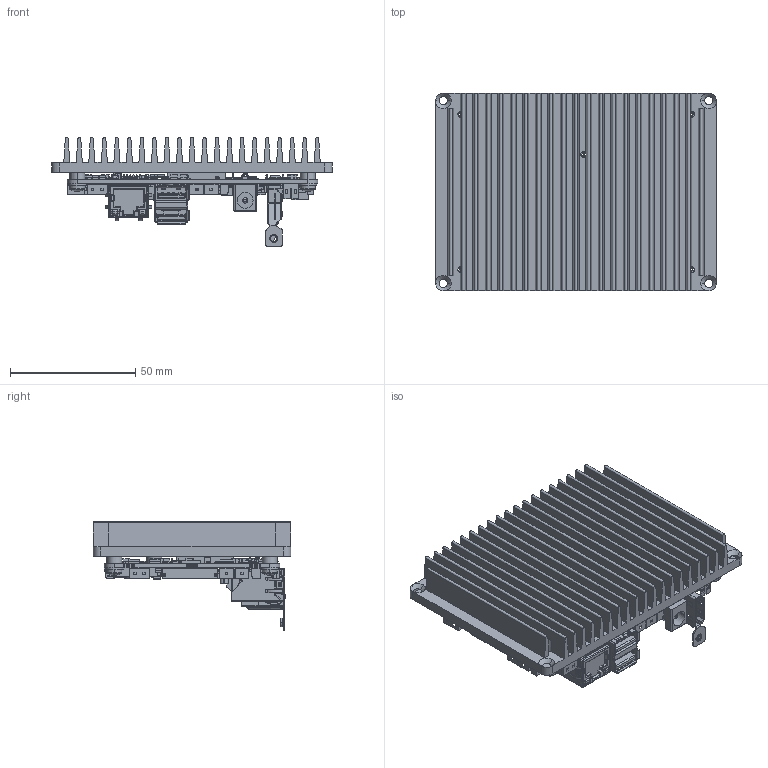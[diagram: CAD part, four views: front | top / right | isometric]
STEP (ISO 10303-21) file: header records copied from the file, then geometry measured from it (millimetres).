
FILE_DESCRIPTION((''),'2;1');
FILE_NAME('467444_002_LIGHT','2024-07-31T',('admin'),(''),'CREO PARAMETRIC BY PTC INC, 2014350','CREO PARAMETRIC BY PTC INC, 2014350','');
FILE_SCHEMA(('AUTOMOTIVE_DESIGN { 1 0 10303 214 1 1 1 1 }'));
Products named in the file (1): 467444_002_LIGHT
Bounding box: 112 x 79 x 43.66 mm (x, y, z)
Surface area: 75080.8 mm2 (no closed solid volume)
Topology: 0 solids, 559 shells, 1689 faces, 12744 edges, 11436 vertices
Faces by surface type: plane 1282, cylinder 292, bspline 48, cone 38, torus 17, revolution 10, sphere 2
Entity records: 132491 total; most frequent: CARTESIAN_POINT 34467, DIRECTION 17217, ORIENTED_EDGE 14776, EDGE_CURVE 12738, VERTEX_POINT 11439, VECTOR 9551, LINE 9551, AXIS2_PLACEMENT_3D 3828
